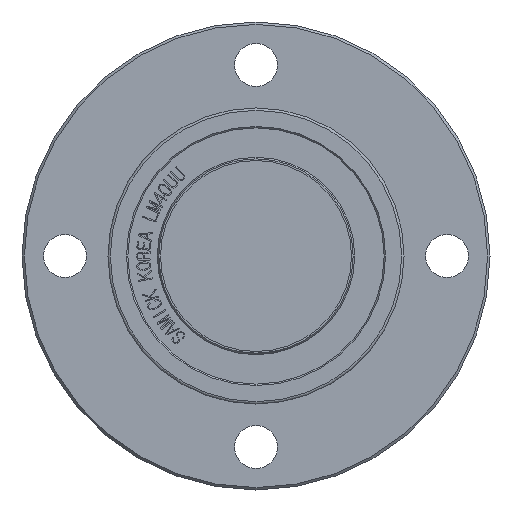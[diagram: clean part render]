
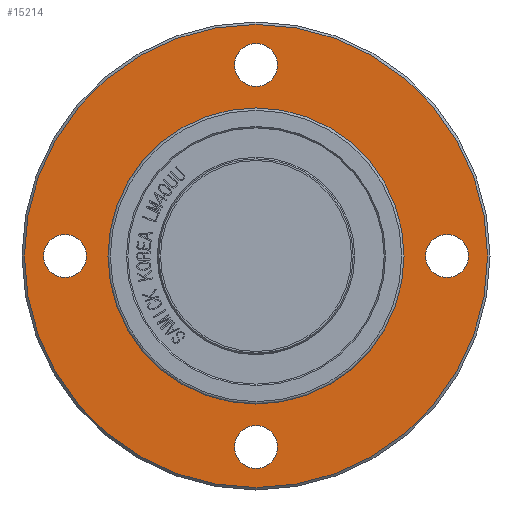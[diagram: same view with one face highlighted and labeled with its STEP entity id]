
A CAD part, front view. The second image highlights one B-rep face of the part: STEP entity #15214.
In plain terms, the highlighted planar face has unit normal (0, -1, 0).
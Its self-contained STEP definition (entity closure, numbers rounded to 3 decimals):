
#4430=FACE_BOUND('',#5349,.T.);
#4431=FACE_BOUND('',#5350,.T.);
#4432=FACE_BOUND('',#5351,.T.);
#4433=FACE_BOUND('',#5352,.T.);
#4434=FACE_BOUND('',#5353,.T.);
#4507=FACE_OUTER_BOUND('',#5348,.T.);
#5348=EDGE_LOOP('',(#10313,#10314));
#5349=EDGE_LOOP('',(#10315));
#5350=EDGE_LOOP('',(#10316));
#5351=EDGE_LOOP('',(#10317));
#5352=EDGE_LOOP('',(#10318));
#5353=EDGE_LOOP('',(#10319,#10320));
#6237=CIRCLE('',#16064,4.5);
#6243=CIRCLE('',#16073,4.5);
#6249=CIRCLE('',#16082,4.5);
#6255=CIRCLE('',#16091,4.5);
#6262=CIRCLE('',#16101,48.5);
#6263=CIRCLE('',#16102,48.5);
#6264=CIRCLE('',#16104,31.);
#6265=CIRCLE('',#16105,31.);
#6311=VERTEX_POINT('',#18229);
#6317=VERTEX_POINT('',#18246);
#6323=VERTEX_POINT('',#18263);
#6329=VERTEX_POINT('',#18280);
#6336=VERTEX_POINT('',#18300);
#6337=VERTEX_POINT('',#18301);
#6338=VERTEX_POINT('',#18306);
#6339=VERTEX_POINT('',#18307);
#7893=EDGE_CURVE('',#6311,#6311,#6237,.T.);
#7901=EDGE_CURVE('',#6317,#6317,#6243,.T.);
#7909=EDGE_CURVE('',#6323,#6323,#6249,.T.);
#7917=EDGE_CURVE('',#6329,#6329,#6255,.T.);
#7926=EDGE_CURVE('',#6336,#6337,#6262,.T.);
#7927=EDGE_CURVE('',#6337,#6336,#6263,.T.);
#7929=EDGE_CURVE('',#6338,#6339,#6264,.T.);
#7930=EDGE_CURVE('',#6339,#6338,#6265,.T.);
#10313=ORIENTED_EDGE('',*,*,#7926,.T.);
#10314=ORIENTED_EDGE('',*,*,#7927,.T.);
#10315=ORIENTED_EDGE('',*,*,#7893,.T.);
#10316=ORIENTED_EDGE('',*,*,#7901,.T.);
#10317=ORIENTED_EDGE('',*,*,#7909,.T.);
#10318=ORIENTED_EDGE('',*,*,#7917,.T.);
#10319=ORIENTED_EDGE('',*,*,#7929,.F.);
#10320=ORIENTED_EDGE('',*,*,#7930,.F.);
#14961=PLANE('',#16103);
#15214=ADVANCED_FACE('',(#4507,#4430,#4431,#4432,#4433,#4434),#14961,.T.);
#16064=AXIS2_PLACEMENT_3D('',#18231,#16415,#16416);
#16073=AXIS2_PLACEMENT_3D('',#18248,#16435,#16436);
#16082=AXIS2_PLACEMENT_3D('',#18265,#16455,#16456);
#16091=AXIS2_PLACEMENT_3D('',#18282,#16475,#16476);
#16101=AXIS2_PLACEMENT_3D('',#18302,#16497,#16498);
#16102=AXIS2_PLACEMENT_3D('',#18303,#16499,#16500);
#16103=AXIS2_PLACEMENT_3D('',#18305,#16502,#16503);
#16104=AXIS2_PLACEMENT_3D('',#18308,#16504,#16505);
#16105=AXIS2_PLACEMENT_3D('',#18309,#16506,#16507);
#16415=DIRECTION('center_axis',(0.,1.,0.));
#16416=DIRECTION('ref_axis',(0.,0.,
1.));
#16435=DIRECTION('center_axis',(0.,1.,0.));
#16436=DIRECTION('ref_axis',(-1.,0.,0.));
#16455=DIRECTION('center_axis',(0.,1.,0.));
#16456=DIRECTION('ref_axis',(0.,0.,
-1.));
#16475=DIRECTION('center_axis',(0.,1.,0.));
#16476=DIRECTION('ref_axis',(1.,0.,0.));
#16497=DIRECTION('center_axis',(0.,-1.,0.));
#16498=DIRECTION('ref_axis',(1.,0.,0.));
#16499=DIRECTION('center_axis',(0.,-1.,0.));
#16500=DIRECTION('ref_axis',(1.,0.,0.));
#16502=DIRECTION('center_axis',(0.,-1.,0.));
#16503=DIRECTION('ref_axis',(0.,0.,-1.));
#16504=DIRECTION('center_axis',(0.,-1.,0.));
#16505=DIRECTION('ref_axis',(1.,0.,0.));
#16506=DIRECTION('center_axis',(0.,-1.,0.));
#16507=DIRECTION('ref_axis',(1.,0.,0.));
#18229=CARTESIAN_POINT('',(0.,27.,35.5));
#18231=CARTESIAN_POINT('Origin',(0.,27.,40.));
#18246=CARTESIAN_POINT('',(-35.5,27.,0.));
#18248=CARTESIAN_POINT('Origin',(-40.,27.,0.));
#18263=CARTESIAN_POINT('',(0.,27.,-35.5));
#18265=CARTESIAN_POINT('Origin',(0.,27.,-40.));
#18280=CARTESIAN_POINT('',(35.5,27.,0.));
#18282=CARTESIAN_POINT('Origin',(40.,27.,0.));
#18300=CARTESIAN_POINT('',(48.5,27.,0.));
#18301=CARTESIAN_POINT('',(-48.5,27.,0.));
#18302=CARTESIAN_POINT('Origin',(0.,27.,0.));
#18303=CARTESIAN_POINT('Origin',(0.,27.,0.));
#18305=CARTESIAN_POINT('Origin',(31.,27.,0.));
#18306=CARTESIAN_POINT('',(31.,27.,0.));
#18307=CARTESIAN_POINT('',(-31.,27.,0.));
#18308=CARTESIAN_POINT('Origin',(0.,27.,0.));
#18309=CARTESIAN_POINT('Origin',(0.,27.,0.));
